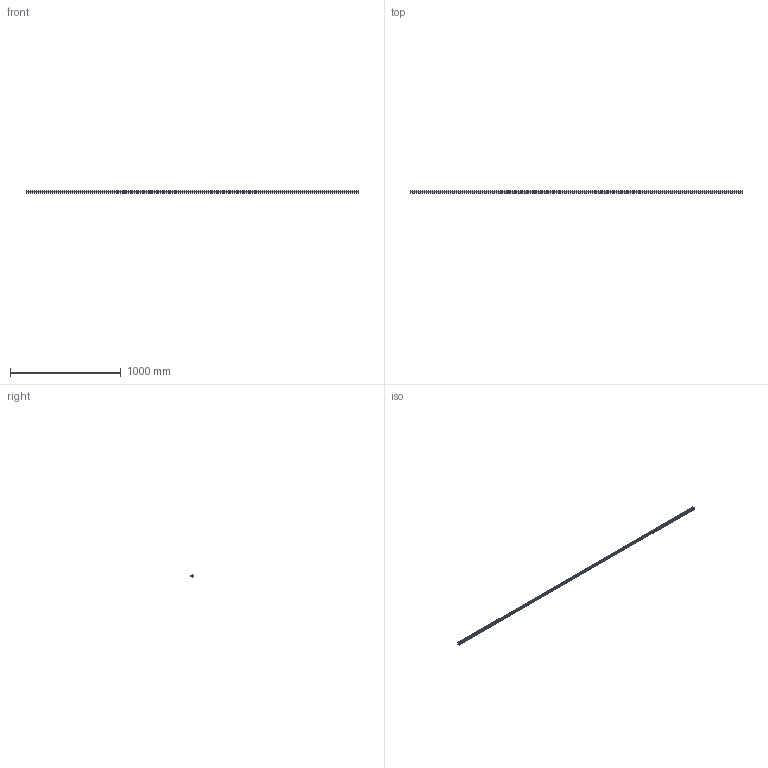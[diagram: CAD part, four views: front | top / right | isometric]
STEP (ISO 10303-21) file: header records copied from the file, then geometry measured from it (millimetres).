
FILE_DESCRIPTION (( 'STEP AP203' ), '1' );
FILE_NAME ('L1018.20R-3000.step', '2023-08-06T09:15:23', ( '' ), ( '' ), 'SwSTEP 2.0', 'SolidWorks 2019', '' );
FILE_SCHEMA (( 'CONFIG_CONTROL_DESIGN' ));
Length unit declared in the file: millimetre
Products named in the file (1): L1018.20R-3000
Bounding box: 3000 x 19.3 x 20 mm (x, y, z)
Volume: 951384.8 mm3; surface area: 253825.9 mm2
Topology: 1 solids, 1 shells, 479 faces, 1081 edges, 604 vertices
Faces by surface type: cylinder 203, cone 200, plane 76
Entity records: 12698 total; most frequent: DIRECTION 2447, CARTESIAN_POINT 2065, ORIENTED_EDGE 1962, AXIS2_PLACEMENT_3D 986, EDGE_CURVE 981, VERTEX_POINT 604, EDGE_LOOP 579, CIRCLE 506
